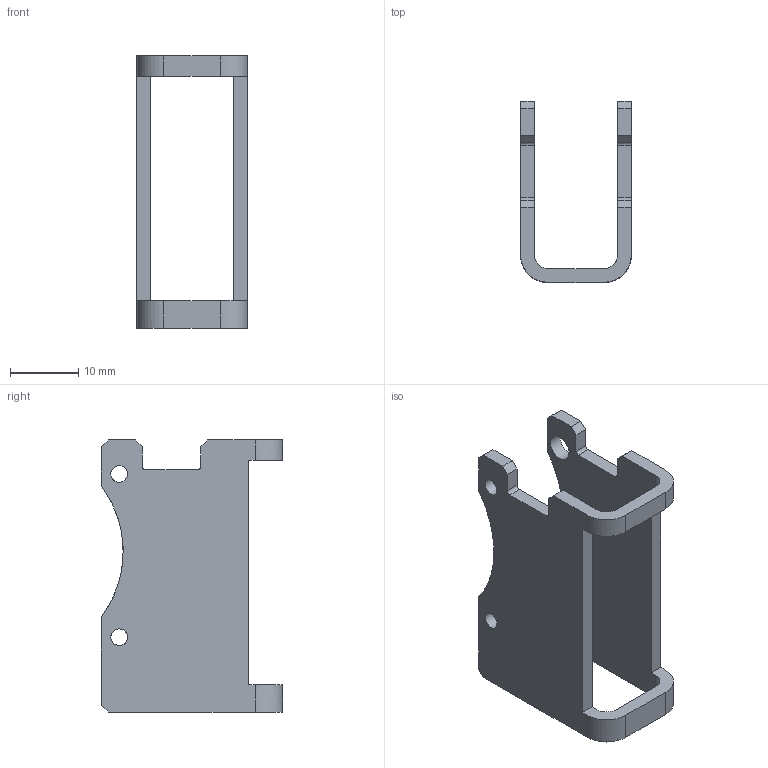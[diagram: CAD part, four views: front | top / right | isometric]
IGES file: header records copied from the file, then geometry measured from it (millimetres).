
Global section: file name: 153-01163_MBD F25 STP Sensorschutz; native system: Autodesk Inventor 2014; preprocessor: unknown; author: mgo; date: 20141125.100055; units: millimetre
Bounding box: 16.25 x 26.6 x 40 mm (x, y, z)
Volume: 3340.8 mm3; surface area: 4071.3 mm2
Topology: 1 solids, 1 shells, 52 faces, 158 edges, 106 vertices
Faces by surface type: bspline 52
